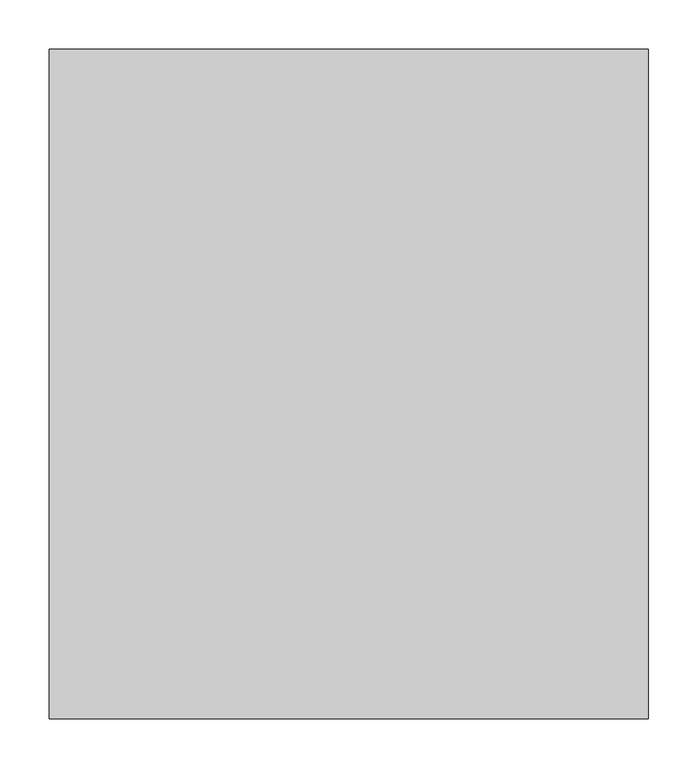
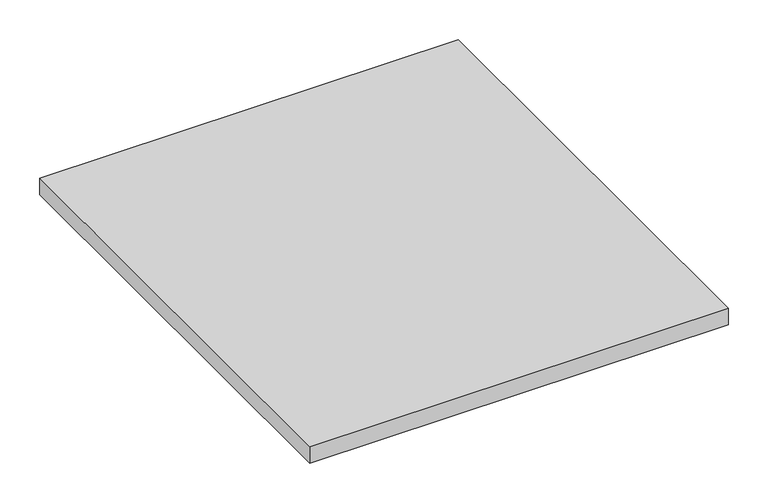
"""IFC4 building model written with IfcOpenShell, lengths in millimetres: proxy geometry, BASYS^CREDENZA 1_INTERNAL DETAILS-LT END DOOR."""

import ifcopenshell
import ifcopenshell.guid

model = None  # the IFC model being written
_history = None  # IfcOwnerHistory: only IFC2X3 demands one
_inside = {}  # id of a spatial element -> (the spatial element, [elements in it])
_under = {}  # id of a project, library or spatial element -> (it, [spatial elements below it])
_declared = {}  # id of a project -> (the project, [libraries it declares])
_typed = {}  # id of a type object -> (the type object, [elements of that type])
_made_of = {}  # id of a material, layer set ... -> (it, [elements and type objects made of it])


def new_model(schema):
    """Start an empty IFC model of exactly this schema.

    Asked for "IFC4X3", IfcOpenShell would pick the latest addendum, in which some entities
    have other attributes; the version numbers below select the first issue.
    IFC2X3 requires an IfcOwnerHistory on every rooted entity: one is made here for all.
    """
    global model, _history
    if schema == "IFC4X3":
        model = ifcopenshell.file(schema_version=(4, 3, 0, 0))
    else:
        model = ifcopenshell.file(schema=schema)
    _inside.clear()
    _under.clear()
    _declared.clear()
    _typed.clear()
    _made_of.clear()
    _history = None
    if model.schema == "IFC2X3":
        org = make("IfcOrganization", Name="unknown")
        user = make(
            "IfcPersonAndOrganization",
            ThePerson=make("IfcPerson", FamilyName="unknown"),
            TheOrganization=org,
        )
        app = make(
            "IfcApplication",
            ApplicationDeveloper=org,
            Version="unknown",
            ApplicationFullName="unknown",
            ApplicationIdentifier="unknown",
        )
        _history = make(
            "IfcOwnerHistory",
            OwningUser=user,
            OwningApplication=app,
            ChangeAction="ADDED",
            CreationDate=0,
        )
    return model


def make(cls, **values):
    """One entity of the class cls with the attributes given. An attribute that is None is left unset."""
    return model.create_entity(
        cls, **{name: value for name, value in values.items() if value is not None}
    )


def rooted(cls, **values):
    """An entity with a GlobalId (a new one), such as an element, a storey or a relation."""
    return make(cls, GlobalId=ifcopenshell.guid.new(), OwnerHistory=_history, **values)


def si_unit(unit_type, name, prefix=None):
    """IfcSIUnit, for example si_unit("LENGTHUNIT", "METRE", prefix="MILLI")."""
    return make("IfcSIUnit", UnitType=unit_type, Prefix=prefix, Name=name)


def assignment(units):
    """IfcUnitAssignment: the units of a project."""
    return None if units is None else make("IfcUnitAssignment", Units=units)


def point(xyz):
    """IfcCartesianPoint."""
    return None if xyz is None else make("IfcCartesianPoint", Coordinates=xyz)


def direction(xyz):
    """IfcDirection."""
    return None if xyz is None else make("IfcDirection", DirectionRatios=xyz)


def frame(location, z_axis=None, x_axis=None):
    """IfcAxis2Placement3D, a coordinate frame: its origin and axes. An axis left out is left unset."""
    return make(
        "IfcAxis2Placement3D",
        Location=point(location),
        Axis=direction(z_axis),
        RefDirection=direction(x_axis),
    )


def origin():
    """The frame at (0, 0, 0) with its axes left unset."""
    return frame((0.0, 0.0, 0.0))


def place(relative_to, where):
    """IfcLocalPlacement: puts the frame where relative to a parent placement (None: the world)."""
    return make(
        "IfcLocalPlacement", PlacementRelTo=relative_to, RelativePlacement=where
    )


def context(
    kind, dimensions, precision=None, world=None, true_north=None, identifier=None
):
    """IfcGeometricRepresentationContext, for example the 3D "Model" context."""
    return make(
        "IfcGeometricRepresentationContext",
        ContextIdentifier=identifier,
        ContextType=kind,
        CoordinateSpaceDimension=dimensions,
        Precision=precision,
        WorldCoordinateSystem=world,
        TrueNorth=true_north,
    )


def project(units=None, contexts=None):
    """IfcProject with its units and contexts."""
    return rooted(
        "IfcProject",
        Name="project",
        RepresentationContexts=contexts,
        UnitsInContext=assignment(units),
    )


def spatial(cls, under=None, at=None, **own):
    """A site, building, storey or space (cls), placed at a placement, below another one or the project."""
    s = rooted(cls, ObjectPlacement=at, **own)
    if under is not None:
        _under.setdefault(under.id(), (under, []))[1].append(s)
    return s


def polyline(points):
    """IfcPolyline through the points."""
    return make("IfcPolyline", Points=[point(p) for p in points])


def outline(outer, holes=None, kind="AREA"):
    """IfcArbitraryClosedProfileDef: a profile drawn as a closed curve; with holes, ...WithVoids."""
    if holes is None:
        return make("IfcArbitraryClosedProfileDef", ProfileType=kind, OuterCurve=outer)
    return make(
        "IfcArbitraryProfileDefWithVoids",
        ProfileType=kind,
        OuterCurve=outer,
        InnerCurves=holes,
    )


def extrude(swept, where, along, depth):
    """IfcExtrudedAreaSolid: the profile swept, set in the frame where, extruded along a direction by depth."""
    return make(
        "IfcExtrudedAreaSolid",
        SweptArea=swept,
        Position=where,
        ExtrudedDirection=direction(along),
        Depth=depth,
    )


def shape(context_of_items, identifier, shape_type, items):
    """IfcShapeRepresentation: the items that make up one representation, for example the "Body"."""
    return make(
        "IfcShapeRepresentation",
        ContextOfItems=context_of_items,
        RepresentationIdentifier=identifier,
        RepresentationType=shape_type,
        Items=items,
    )


def source(mapping_origin, context_of_items, identifier, shape_type, items):
    """IfcRepresentationMap: a shape defined once, which mapped items show again and again."""
    return make(
        "IfcRepresentationMap",
        MappingOrigin=mapping_origin,
        MappedRepresentation=shape(context_of_items, identifier, shape_type, items),
    )


def transform(
    local_origin,
    x_axis=None,
    y_axis=None,
    z_axis=None,
    scale=None,
    scale2=None,
    scale3=None,
    uniform=True,
):
    """IfcCartesianTransformationOperator3D, or its non-uniform kind. x_axis, y_axis, z_axis: its Axis1, 2, 3."""
    if uniform:
        return make(
            "IfcCartesianTransformationOperator3D",
            Axis1=direction(x_axis),
            Axis2=direction(y_axis),
            LocalOrigin=point(local_origin),
            Scale=scale,
            Axis3=direction(z_axis),
        )
    return make(
        "IfcCartesianTransformationOperator3DnonUniform",
        Axis1=direction(x_axis),
        Axis2=direction(y_axis),
        LocalOrigin=point(local_origin),
        Scale=scale,
        Axis3=direction(z_axis),
        Scale2=scale2,
        Scale3=scale3,
    )


def mapped(mapping_source, mapping_target):
    """IfcMappedItem: shows the shape of a source again, moved by a transform."""
    return make(
        "IfcMappedItem", MappingSource=mapping_source, MappingTarget=mapping_target
    )


def made_of(thing, what):
    """Note that an element or type object is made of a material, layer set ...; save() writes the relation."""
    if what is not None:
        _made_of.setdefault(what.id(), (what, []))[1].append(thing)
    return thing


def element(
    cls,
    number,
    at=None,
    inside=None,
    cuts=None,
    type_object=None,
    material=None,
    context=None,
    identifier="Body",
    shape_type=None,
    held_by="IfcProductDefinitionShape",
    body=None,
    shapes=None,
    **own,
):
    """One element of the class cls, such as IfcWall. Its Tag is "e" and its number.

    at: its placement. inside: the storey or other place that contains it. cuts: it is an
    opening in that element (IfcRelVoidsElement). A single representation is given by context,
    identifier, shape_type and body (its items); several are given by shapes. held_by: the class
    of the entity that holds the representations. save() writes the other relations.
    """
    e = rooted(cls, Tag="e%d" % number, ObjectPlacement=at, **own)
    if body is not None:
        shapes = [shape(context, identifier, shape_type, body)]
    if shapes is not None:
        e.Representation = make(held_by, Representations=shapes)
    if inside is not None:
        _inside.setdefault(inside.id(), (inside, []))[1].append(e)
    if cuts is not None:
        rooted(
            "IfcRelVoidsElement", RelatingBuildingElement=cuts, RelatedOpeningElement=e
        )
    if type_object is not None:
        _typed.setdefault(type_object.id(), (type_object, []))[1].append(e)
    return made_of(e, material)


def aggregate(whole, parts):
    """IfcRelAggregates: a whole, such as a stair, and the parts it consists of."""
    return rooted("IfcRelAggregates", RelatingObject=whole, RelatedObjects=parts)


def save(model, path):
    """Write the relations noted so far, then the file.

    IfcRelAggregates (storeys below a building ...), IfcRelContainedInSpatialStructure (elements
    in a storey), IfcRelDefinesByType, IfcRelAssociatesMaterial and IfcRelDeclares: one each for
    every whole, place, type object, material and project.
    """
    for whole, parts in _under.values():
        aggregate(whole, parts)
    for where, things in _inside.values():
        rooted(
            "IfcRelContainedInSpatialStructure",
            RelatedElements=things,
            RelatingStructure=where,
        )
    for kind, things in _typed.values():
        rooted("IfcRelDefinesByType", RelatedObjects=things, RelatingType=kind)
    for what, things in _made_of.values():
        rooted("IfcRelAssociatesMaterial", RelatedObjects=things, RelatingMaterial=what)
    for by, libraries in _declared.values():
        rooted("IfcRelDeclares", RelatingContext=by, RelatedDefinitions=libraries)
    model.write(path)


def generic_models_30467224(model_context):
    return source(origin(), model_context, "Body", "SweptSolid", [
        extrude(outline(polyline([(609.0046875, -687.55), (2.38125, -687.55), (2.38125, -9.525), (609.0046875, -9.525), (609.0046875, -687.55)])), frame((0.0, 0.0, -25.4), z_axis=(0.0, 0.0, 1.0), x_axis=(1.0, 0.0, 0.0)), (0.0, 0.0, 1.0), 25.4),
    ])


if __name__ == "__main__":
    model = new_model("IFC4")
    model_context = context("Model", 3, world=origin())
    ifc_project = project(units=[si_unit("LENGTHUNIT", "METRE", prefix="MILLI")], contexts=[model_context])
    site = spatial("IfcSite", under=ifc_project)
    building = spatial("IfcBuilding", under=site)
    placement = place(None, origin())
    generic_models_shape = generic_models_30467224(model_context)
    element("IfcBuildingElementProxy", 1, Name="BASYS^CREDENZA 1_INTERNAL DETAILS-LT END DOOR", ObjectType="BASYS^CREDENZA 1_INTERNAL DETAILS-LT END DOOR", at=placement, inside=building, context=model_context, shape_type="MappedRepresentation", body=[
        mapped(generic_models_shape, transform((0.0, 0.0, 0.0), x_axis=(1.0, 0.0, 0.0), y_axis=(0.0, 1.0, 0.0), z_axis=(0.0, 0.0, 1.0))),
    ])
    save(model, "model.ifc")
